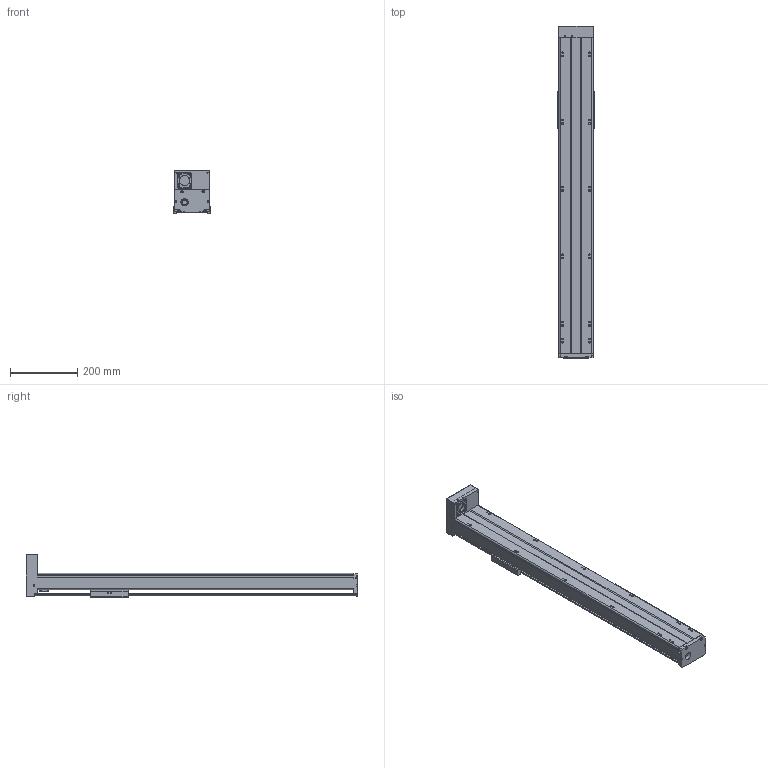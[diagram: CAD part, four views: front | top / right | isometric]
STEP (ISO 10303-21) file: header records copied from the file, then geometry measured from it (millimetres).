
FILE_DESCRIPTION(/* description */ (''),/* implementation_level */ '2;1');
FILE_NAME(/* name */ 'TKA100-FD-750_asm1.stp',/* time_stamp */ '2016-05-16T15:27:40+08:00',/* author */ (''),/* organization */ (''),/* preprocessor_version */ 'ST-DEVELOPER v15',/* originating_system */ 'SIEMENS PLM Software NX 8.5',/* authorisation */ '');
FILE_SCHEMA (('AUTOMOTIVE_DESIGN { 1 0 10303 214 3 1 1 1 }'));
Length unit declared in the file: millimetre
Products named in the file (3): 200-02; 200-01; TKA100-FD-750_asm1
Assembly tree (2 placements, depth 2):
  TKA100-FD-750_asm1
    200-01
    200-02
Bounding box: 110 x 986 x 127 mm (x, y, z)
Volume: 2101044.4 mm3; surface area: 731265.6 mm2
Topology: 2 solids, 13 shells, 801 faces, 2068 edges, 1344 vertices
Faces by surface type: cylinder 311, plane 301, cone 125, torus 38, bspline 26
Full cylindrical faces by diameter (mm): 2.5 x6, 2.6 x8, 3.3 x10, 3.4 x10, 3.8 x8, 4.2 x21, 4.3 x4, 4.5 x8, 5 x1, 5.5 x22, 6.6 x4, 8 x5, 9 x4, 10 x14, 11 x4, 12 x7, 15.3 x1, 16 x1, 22 x1, 24 x1, 28 x4, 30 x1, 33 x1
Entity records: 28528 total; most frequent: CARTESIAN_POINT 10059, DIRECTION 3858, ORIENTED_EDGE 3484, EDGE_CURVE 1742, AXIS2_PLACEMENT_3D 1548, VERTEX_POINT 1254, EDGE_LOOP 1152, ADVANCED_FACE 801
